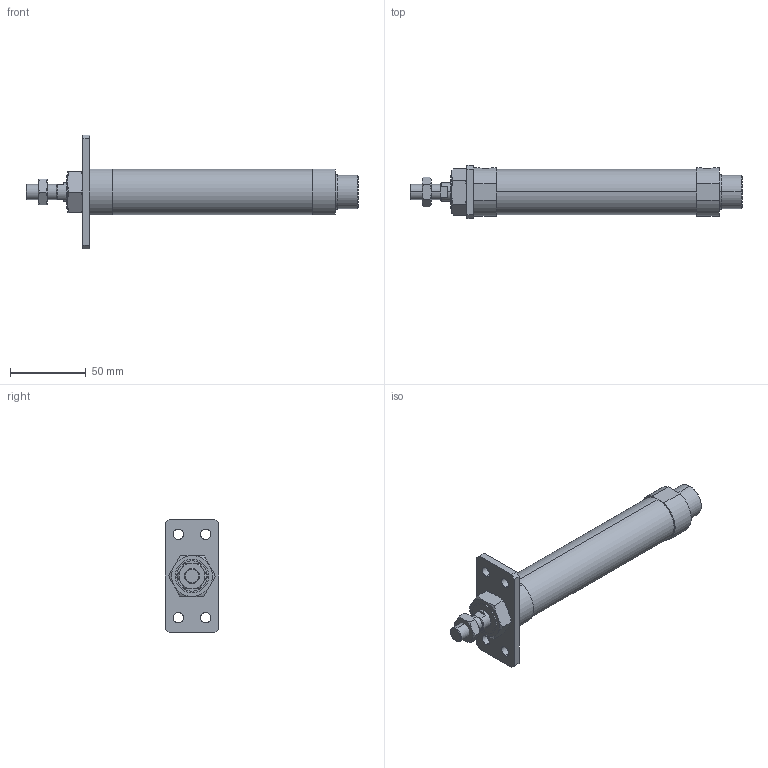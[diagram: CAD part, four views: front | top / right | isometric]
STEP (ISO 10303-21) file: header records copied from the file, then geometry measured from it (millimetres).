
FILE_DESCRIPTION (( 'STEP AP203' ), '1' );
FILE_NAME ('J#2-25-100-A.STEP', '2016-03-08T07:14:40', ( '' ), ( '' ), 'SwSTEP 2.0', 'SolidWorks 2014', '' );
FILE_SCHEMA (( 'CONFIG_CONTROL_DESIGN' ));
Length unit declared in the file: millimetre
Products named in the file (5): J#2-25-A; J#2-25-100; J#2-25-100-A
Assembly tree (4 placements, depth 2):
  J#2-25-100-A
    J#2-25-100
    (unnamed)
    (unnamed)
    J#2-25-A
Bounding box: 219 x 35 x 75 mm (x, y, z)
Volume: 141545.3 mm3; surface area: 30144 mm2
Topology: 4 solids, 4 shells, 117 faces, 268 edges, 162 vertices
Faces by surface type: plane 47, cylinder 36, torus 24, cone 10
Entity records: 4123 total; most frequent: CARTESIAN_POINT 990, DIRECTION 558, ORIENTED_EDGE 528, EDGE_CURVE 264, AXIS2_PLACEMENT_3D 226, VERTEX_POINT 162, EDGE_LOOP 138, ADVANCED_FACE 117
